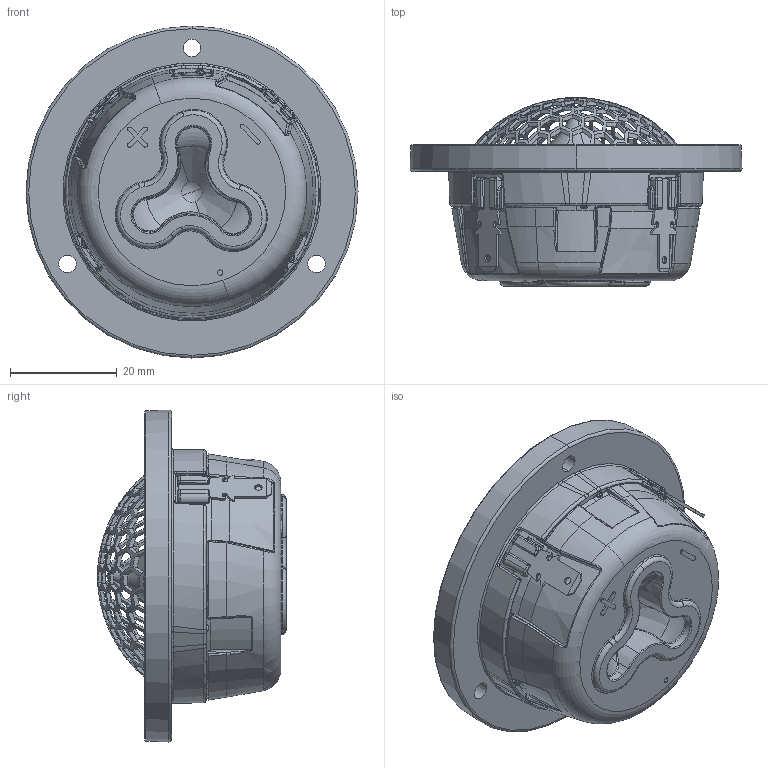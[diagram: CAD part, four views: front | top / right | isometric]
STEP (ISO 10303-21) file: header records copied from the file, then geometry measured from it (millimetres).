
FILE_DESCRIPTION (( 'STEP AP214' ), '1' );
FILE_NAME ('R3004-602005.STEP', '2020-12-15T10:28:34', ( '' ), ( '' ), 'SwSTEP 2.0', 'SolidWorks 2019', '' );
FILE_SCHEMA (( 'AUTOMOTIVE_DESIGN' ));
Length unit declared in the file: millimetre
Products named in the file (1): R3004-602005
Bounding box: 62.21 x 35.28 x 62.21 mm (x, y, z)
Volume: 43837.9 mm3; surface area: 16770.5 mm2
Topology: 3 solids, 5 shells, 1530 faces, 4211 edges, 2648 vertices
Faces by surface type: plane 771, bspline 250, torus 171, cylinder 164, cone 130, sphere 44
Entity records: 71930 total; most frequent: CARTESIAN_POINT 17086, ORIENTED_EDGE 8344, DIRECTION 8038, EDGE_CURVE 4172, AXIS2_PLACEMENT_3D 3462, VERTEX_POINT 2648, CIRCLE 2181, EDGE_LOOP 1690
